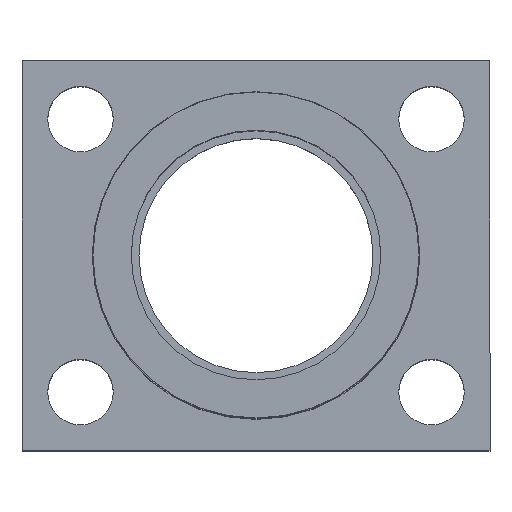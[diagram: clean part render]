
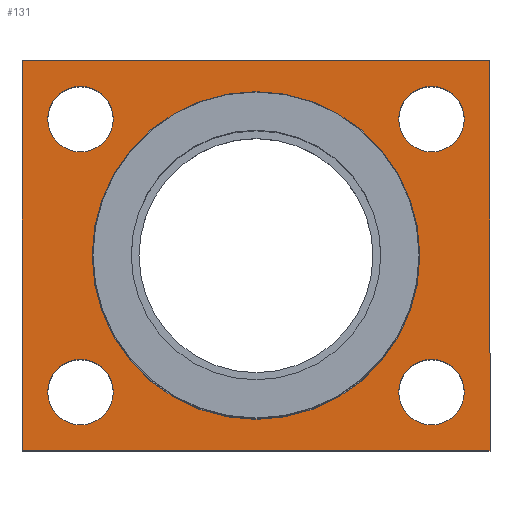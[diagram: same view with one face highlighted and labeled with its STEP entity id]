
A CAD part, top view. The second image highlights one B-rep face of the part: STEP entity #131.
In plain terms, the highlighted planar face has unit normal (0, 0, 1).
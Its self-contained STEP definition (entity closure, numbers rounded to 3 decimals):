
#10 = AXIS2_PLACEMENT_3D ( 'NONE', #1223, #1233, #1085 ) ;
#37 = EDGE_LOOP ( 'NONE', ( #1369, #1867 ) ) ;
#103 = CARTESIAN_POINT ( 'NONE',  ( -30., -25., 8. ) ) ;
#111 = AXIS2_PLACEMENT_3D ( 'NONE', #1977, #1998, #610 ) ;
#118 = DIRECTION ( 'NONE',  ( 0., -1., 0. ) ) ;
#119 = CARTESIAN_POINT ( 'NONE',  ( -21., 0., 8. ) ) ;
#121 = DIRECTION ( 'NONE',  ( 0., 0., 1. ) ) ;
#131 = ADVANCED_FACE ( 'NONE', ( #897, #2014, #1516, #274, #760, #1061 ), #2023, .T. ) ;
#163 = AXIS2_PLACEMENT_3D ( 'NONE', #1607, #1925, #216 ) ;
#174 = EDGE_CURVE ( 'NONE', #800, #672, #1817, .T. ) ;
#194 = DIRECTION ( 'NONE',  ( 0., 0., 1. ) ) ;
#198 = EDGE_CURVE ( 'NONE', #521, #520, #1372, .T. ) ;
#201 = CIRCLE ( 'NONE', #463, 4.2 ) ;
#208 = VERTEX_POINT ( 'NONE', #741 ) ;
#216 = DIRECTION ( 'NONE',  ( 1., 0., 0. ) ) ;
#254 = VERTEX_POINT ( 'NONE', #1316 ) ;
#261 = ORIENTED_EDGE ( 'NONE', *, *, #1569, .T. ) ;
#265 = AXIS2_PLACEMENT_3D ( 'NONE', #864, #1794, #1331 ) ;
#271 = AXIS2_PLACEMENT_3D ( 'NONE', #294, #591, #1700 ) ;
#273 = DIRECTION ( 'NONE',  ( 0., 1., 0. ) ) ;
#274 = FACE_BOUND ( 'NONE', #476, .T. ) ;
#292 = LINE ( 'NONE', #1069, #1542 ) ;
#293 = EDGE_LOOP ( 'NONE', ( #1279, #1619 ) ) ;
#294 = CARTESIAN_POINT ( 'NONE',  ( 0., 0., 8. ) ) ;
#312 = DIRECTION ( 'NONE',  ( 0., 0., 1. ) ) ;
#344 = CARTESIAN_POINT ( 'NONE',  ( -26.7, 17.5, 8. ) ) ;
#409 = VERTEX_POINT ( 'NONE', #1611 ) ;
#420 = CARTESIAN_POINT ( 'NONE',  ( 22.5, -17.5, 8. ) ) ;
#421 = VERTEX_POINT ( 'NONE', #840 ) ;
#422 = CARTESIAN_POINT ( 'NONE',  ( -30., 25., 8. ) ) ;
#424 = DIRECTION ( 'NONE',  ( 1., 0., 0. ) ) ;
#443 = VERTEX_POINT ( 'NONE', #1155 ) ;
#460 = CARTESIAN_POINT ( 'NONE',  ( -18.3, 17.5, 8. ) ) ;
#463 = AXIS2_PLACEMENT_3D ( 'NONE', #607, #312, #486 ) ;
#476 = EDGE_LOOP ( 'NONE', ( #1526, #560 ) ) ;
#482 = AXIS2_PLACEMENT_3D ( 'NONE', #884, #1226, #424 ) ;
#486 = DIRECTION ( 'NONE',  ( 1., 0., 0. ) ) ;
#496 = CARTESIAN_POINT ( 'NONE',  ( 26.7, -17.5, 8. ) ) ;
#505 = EDGE_CURVE ( 'NONE', #672, #800, #1350, .T. ) ;
#520 = VERTEX_POINT ( 'NONE', #1966 ) ;
#521 = VERTEX_POINT ( 'NONE', #119 ) ;
#528 = EDGE_CURVE ( 'NONE', #1537, #940, #1286, .T. ) ;
#546 = DIRECTION ( 'NONE',  ( 1., 0., 0. ) ) ;
#560 = ORIENTED_EDGE ( 'NONE', *, *, #1052, .F. ) ;
#561 = VECTOR ( 'NONE', #1644, 1000. ) ;
#572 = EDGE_CURVE ( 'NONE', #443, #208, #292, .T. ) ;
#578 = CARTESIAN_POINT ( 'NONE',  ( -30., 25., 8. ) ) ;
#591 = DIRECTION ( 'NONE',  ( 0., 0., 1. ) ) ;
#607 = CARTESIAN_POINT ( 'NONE',  ( -22.5, 17.5, 8. ) ) ;
#610 = DIRECTION ( 'NONE',  ( 1., 0., 0. ) ) ;
#622 = DIRECTION ( 'NONE',  ( 0., 0., 1. ) ) ;
#672 = VERTEX_POINT ( 'NONE', #1573 ) ;
#691 = VERTEX_POINT ( 'NONE', #460 ) ;
#728 = LINE ( 'NONE', #103, #561 ) ;
#741 = CARTESIAN_POINT ( 'NONE',  ( 30., 25., 8. ) ) ;
#760 = FACE_BOUND ( 'NONE', #293, .T. ) ;
#800 = VERTEX_POINT ( 'NONE', #1533 ) ;
#807 = DIRECTION ( 'NONE',  ( 1., 0., 0. ) ) ;
#840 = CARTESIAN_POINT ( 'NONE',  ( 26.7, 17.5, 8. ) ) ;
#859 = EDGE_LOOP ( 'NONE', ( #1999, #1278 ) ) ;
#864 = CARTESIAN_POINT ( 'NONE',  ( 22.5, 17.5, 8. ) ) ;
#884 = CARTESIAN_POINT ( 'NONE',  ( 22.5, -17.5, 8. ) ) ;
#897 = FACE_BOUND ( 'NONE', #37, .T. ) ;
#902 = CARTESIAN_POINT ( 'NONE',  ( 18.3, -17.5, 8. ) ) ;
#909 = CIRCLE ( 'NONE', #1951, 4.2 ) ;
#921 = EDGE_CURVE ( 'NONE', #691, #1421, #1725, .T. ) ;
#940 = VERTEX_POINT ( 'NONE', #496 ) ;
#945 = EDGE_CURVE ( 'NONE', #520, #521, #1333, .T. ) ;
#985 = EDGE_CURVE ( 'NONE', #409, #421, #1274, .T. ) ;
#993 = VECTOR ( 'NONE', #118, 1000. ) ;
#1021 = DIRECTION ( 'NONE',  ( -1., 0., 0. ) ) ;
#1039 = EDGE_CURVE ( 'NONE', #254, #443, #728, .T. ) ;
#1052 = EDGE_CURVE ( 'NONE', #940, #1537, #909, .T. ) ;
#1061 = FACE_OUTER_BOUND ( 'NONE', #1795, .T. ) ;
#1069 = CARTESIAN_POINT ( 'NONE',  ( 30., -25., 8. ) ) ;
#1083 = DIRECTION ( 'NONE',  ( 1., 0., 0. ) ) ;
#1085 = DIRECTION ( 'NONE',  ( 1., 0., 0. ) ) ;
#1114 = ORIENTED_EDGE ( 'NONE', *, *, #1490, .T. ) ;
#1141 = CARTESIAN_POINT ( 'NONE',  ( 0., 0., 8. ) ) ;
#1155 = CARTESIAN_POINT ( 'NONE',  ( 30., -25., 8. ) ) ;
#1157 = ORIENTED_EDGE ( 'NONE', *, *, #572, .T. ) ;
#1167 = ORIENTED_EDGE ( 'NONE', *, *, #1039, .T. ) ;
#1188 = DIRECTION ( 'NONE',  ( 0., 0., 1. ) ) ;
#1191 = LINE ( 'NONE', #1654, #1291 ) ;
#1223 = CARTESIAN_POINT ( 'NONE',  ( 22.5, 17.5, 8. ) ) ;
#1226 = DIRECTION ( 'NONE',  ( 0., 0., 1. ) ) ;
#1233 = DIRECTION ( 'NONE',  ( 0., 0., 1. ) ) ;
#1238 = DIRECTION ( 'NONE',  ( 1., 0., 0. ) ) ;
#1255 = EDGE_CURVE ( 'NONE', #1421, #691, #201, .T. ) ;
#1274 = CIRCLE ( 'NONE', #265, 4.2 ) ;
#1278 = ORIENTED_EDGE ( 'NONE', *, *, #174, .F. ) ;
#1279 = ORIENTED_EDGE ( 'NONE', *, *, #945, .F. ) ;
#1286 = CIRCLE ( 'NONE', #482, 4.2 ) ;
#1291 = VECTOR ( 'NONE', #1021, 1000. ) ;
#1316 = CARTESIAN_POINT ( 'NONE',  ( -30., -25., 8. ) ) ;
#1331 = DIRECTION ( 'NONE',  ( 1., 0., 0. ) ) ;
#1333 = CIRCLE ( 'NONE', #1983, 21. ) ;
#1350 = CIRCLE ( 'NONE', #111, 4.2 ) ;
#1369 = ORIENTED_EDGE ( 'NONE', *, *, #985, .F. ) ;
#1372 = CIRCLE ( 'NONE', #271, 21. ) ;
#1407 = AXIS2_PLACEMENT_3D ( 'NONE', #1506, #121, #1083 ) ;
#1421 = VERTEX_POINT ( 'NONE', #344 ) ;
#1490 = EDGE_CURVE ( 'NONE', #208, #1621, #1191, .T. ) ;
#1497 = EDGE_LOOP ( 'NONE', ( #1944, #1896 ) ) ;
#1506 = CARTESIAN_POINT ( 'NONE',  ( -22.5, -17.5, 8. ) ) ;
#1513 = LINE ( 'NONE', #422, #993 ) ;
#1516 = FACE_BOUND ( 'NONE', #859, .T. ) ;
#1526 = ORIENTED_EDGE ( 'NONE', *, *, #528, .F. ) ;
#1527 = CARTESIAN_POINT ( 'NONE',  ( 0., 0., 8. ) ) ;
#1533 = CARTESIAN_POINT ( 'NONE',  ( -18.3, -17.5, 8. ) ) ;
#1537 = VERTEX_POINT ( 'NONE', #902 ) ;
#1542 = VECTOR ( 'NONE', #273, 1000. ) ;
#1569 = EDGE_CURVE ( 'NONE', #1621, #254, #1513, .T. ) ;
#1573 = CARTESIAN_POINT ( 'NONE',  ( -26.7, -17.5, 8. ) ) ;
#1607 = CARTESIAN_POINT ( 'NONE',  ( -22.5, 17.5, 8. ) ) ;
#1611 = CARTESIAN_POINT ( 'NONE',  ( 18.3, 17.5, 8. ) ) ;
#1619 = ORIENTED_EDGE ( 'NONE', *, *, #198, .F. ) ;
#1621 = VERTEX_POINT ( 'NONE', #578 ) ;
#1644 = DIRECTION ( 'NONE',  ( 1., 0., 0. ) ) ;
#1654 = CARTESIAN_POINT ( 'NONE',  ( 30., 25., 8. ) ) ;
#1672 = EDGE_CURVE ( 'NONE', #421, #409, #1904, .T. ) ;
#1700 = DIRECTION ( 'NONE',  ( 1., 0., 0. ) ) ;
#1725 = CIRCLE ( 'NONE', #163, 4.2 ) ;
#1794 = DIRECTION ( 'NONE',  ( 0., 0., 1. ) ) ;
#1795 = EDGE_LOOP ( 'NONE', ( #1114, #261, #1167, #1157 ) ) ;
#1817 = CIRCLE ( 'NONE', #1407, 4.2 ) ;
#1867 = ORIENTED_EDGE ( 'NONE', *, *, #1672, .F. ) ;
#1896 = ORIENTED_EDGE ( 'NONE', *, *, #921, .F. ) ;
#1904 = CIRCLE ( 'NONE', #10, 4.2 ) ;
#1921 = AXIS2_PLACEMENT_3D ( 'NONE', #1527, #622, #1238 ) ;
#1925 = DIRECTION ( 'NONE',  ( 0., 0., 1. ) ) ;
#1944 = ORIENTED_EDGE ( 'NONE', *, *, #1255, .F. ) ;
#1951 = AXIS2_PLACEMENT_3D ( 'NONE', #420, #1188, #546 ) ;
#1966 = CARTESIAN_POINT ( 'NONE',  ( 21., 0., 8. ) ) ;
#1977 = CARTESIAN_POINT ( 'NONE',  ( -22.5, -17.5, 8. ) ) ;
#1983 = AXIS2_PLACEMENT_3D ( 'NONE', #1141, #194, #807 ) ;
#1998 = DIRECTION ( 'NONE',  ( 0., 0., 1. ) ) ;
#1999 = ORIENTED_EDGE ( 'NONE', *, *, #505, .F. ) ;
#2014 = FACE_BOUND ( 'NONE', #1497, .T. ) ;
#2023 = PLANE ( 'NONE',  #1921 ) ;
